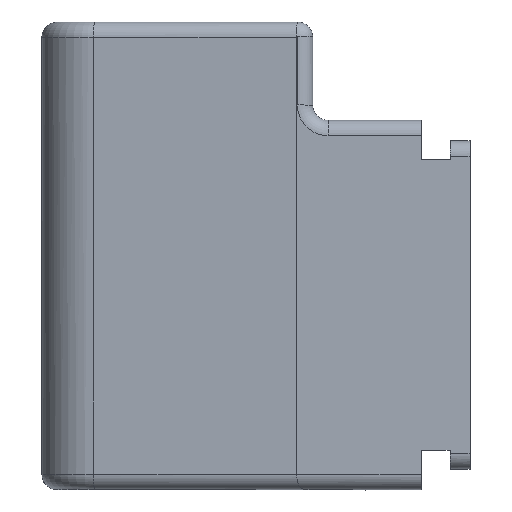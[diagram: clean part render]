
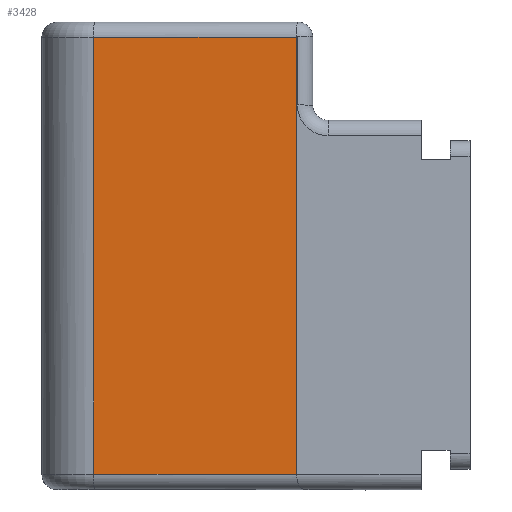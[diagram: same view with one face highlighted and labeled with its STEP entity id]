
A CAD part, top view. The second image highlights one B-rep face of the part: STEP entity #3428.
In plain terms, the highlighted planar face has unit normal (-0.052, 0, 0.999).
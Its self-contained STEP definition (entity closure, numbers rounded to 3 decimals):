
#822=DIRECTION('',(-0.999,0.001,-0.052));
#823=VECTOR('',#822,18.599);
#824=CARTESIAN_POINT('',(-49.774,-20.004,22.394));
#825=LINE('',#824,#823);
#829=DIRECTION('',(0.,1.,0.));
#830=VECTOR('',#829,39.968);
#831=CARTESIAN_POINT('',(-68.347,-19.984,21.421));
#832=LINE('',#831,#830);
#836=DIRECTION('',(0.999,0.001,0.052));
#837=VECTOR('',#836,18.565);
#838=CARTESIAN_POINT('',(-68.347,19.984,21.423));
#839=LINE('',#838,#837);
#843=DIRECTION('',(0.001,-1.,0.));
#844=VECTOR('',#843,40.003);
#845=CARTESIAN_POINT('',(-49.807,19.999,22.394));
#846=LINE('',#845,#844);
#864=CARTESIAN_POINT('',(-68.347,-19.984,21.421));
#2454=VERTEX_POINT('',#864);
#2456=CARTESIAN_POINT('',(-68.347,19.984,21.423));
#2457=CARTESIAN_POINT('',(-49.807,19.999,22.394));
#2458=VERTEX_POINT('',#2456);
#2459=VERTEX_POINT('',#2457);
#2737=CARTESIAN_POINT('',(-49.774,-20.004,
22.394));
#2738=VERTEX_POINT('',#2737);
#3415=CARTESIAN_POINT('',(-49.808,21.399,22.394));
#3416=DIRECTION('',(0.052,0.,-0.999));
#3417=DIRECTION('',(-0.999,-0.001,-0.052));
#3418=AXIS2_PLACEMENT_3D('',#3415,#3416,#3417);
#3419=PLANE('',#3418);
#3420=ORIENTED_EDGE('',*,*,#3112,.T.);
#3422=ORIENTED_EDGE('',*,*,#3421,.T.);
#3424=ORIENTED_EDGE('',*,*,#3423,.T.);
#3425=ORIENTED_EDGE('',*,*,#3383,.T.);
#3426=EDGE_LOOP('',(#3420,#3422,#3424,#3425));
#3427=FACE_OUTER_BOUND('',#3426,.F.);
#3112=EDGE_CURVE('',#2738,#2454,#825,.T.);
#3383=EDGE_CURVE('',#2459,#2738,#846,.T.);
#3421=EDGE_CURVE('',#2454,#2458,#832,.T.);
#3423=EDGE_CURVE('',#2458,#2459,#839,.T.);
#3428=ADVANCED_FACE('',(#3427),#3419,.F.);
